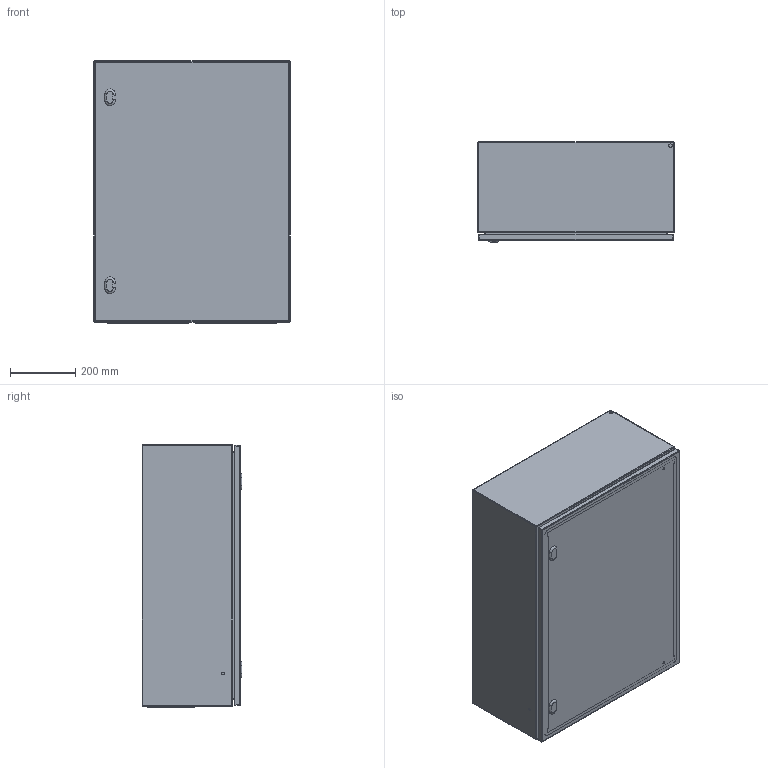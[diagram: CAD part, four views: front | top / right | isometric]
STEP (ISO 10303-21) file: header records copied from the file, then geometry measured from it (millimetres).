
FILE_DESCRIPTION(/* description */ ('STEP AP214'),/* implementation_level */ '2;1');
FILE_NAME(/* name */ 'EC060830-LOD400',/* time_stamp */ '2025-07-31T14:56:36+02:00',/* author */ ('License CC BY-ND 4.0'),/* organization */ ('CADENAS'),/* preprocessor_version */ 'ST-DEVELOPER v19.3',/* originating_system */ 'PARTsolutions',/* authorisation */ ' ');
FILE_SCHEMA (('AUTOMOTIVE_DESIGN {1 0 10303 214 3 1 1}'));
Length unit declared in the file: millimetre
Products named in the file (5): EC060830-LOD400; EC060830-LOD400_cabinet; EC060830-LOD400_door; EC060830-LOD400_bottom_plate; EC060830-LOD400_inner_plate
Assembly tree (5 placements, depth 2):
  EC060830-LOD400
    EC060830-LOD400_cabinet
    EC060830-LOD400_door
    EC060830-LOD400_bottom_plate  x2
    EC060830-LOD400_inner_plate
Bounding box: 600 x 305 x 804 mm (x, y, z)
Volume: 3984215.1 mm3; surface area: 4771523.9 mm2
Topology: 5 solids, 5 shells, 706 faces, 1696 edges, 1094 vertices
Faces by surface type: cylinder 284, plane 264, torus 80, cone 78
Full cylindrical faces by diameter (mm): 1 x64, 4.5 x62, 5 x4, 5.5 x4, 6 x4, 7 x4, 8 x12, 10 x10, 14 x4
Entity records: 15443 total; most frequent: DIRECTION 2812, CARTESIAN_POINT 2496, ORIENTED_EDGE 2236, AXIS2_PLACEMENT_3D 1146, EDGE_CURVE 1118, EDGE_LOOP 976, FACE_BOUND 976, VERTEX_POINT 830
